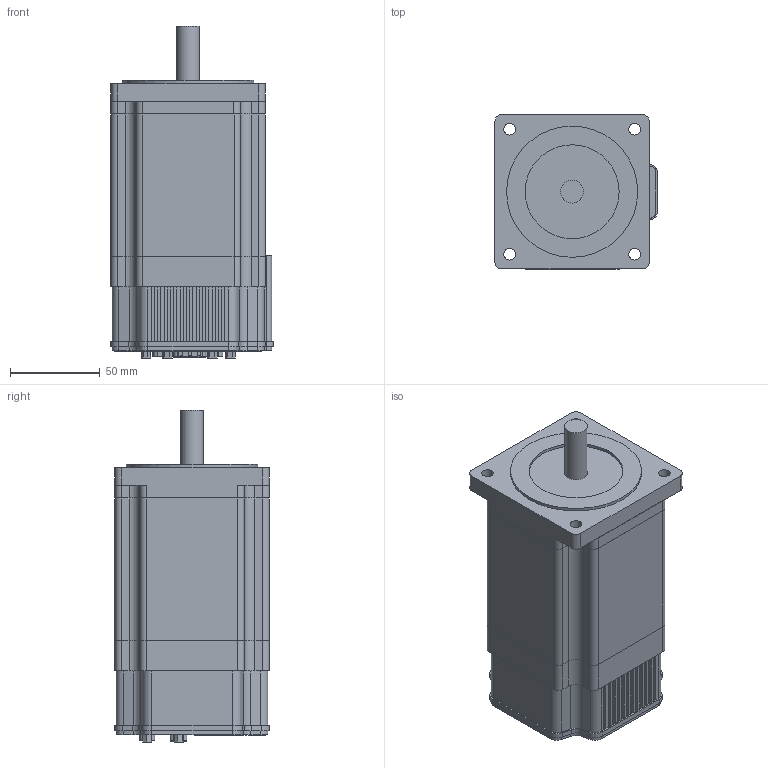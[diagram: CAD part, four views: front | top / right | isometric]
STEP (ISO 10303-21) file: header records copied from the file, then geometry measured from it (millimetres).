
FILE_DESCRIPTION(/* description */ ('Alibre Inc.'),/* implementation_level */ '2;1');
FILE_NAME(/* name */ 'export-09EFDB96-1C79-44C5-A577-45B2F0AC5B2B',/* time_stamp */ '2022-02-23T11:07:02-08:00',/* author */ (''),/* organization */ (''),/* preprocessor_version */ 'ST-DEVELOPER v17',/* originating_system */ 'Alibre',/* authorisation */ '');
FILE_SCHEMA (('CONFIG_CONTROL_DESIGN'));
Length unit declared in the file: inch
Products named in the file (15): ID_1
Bounding box: 90.42 x 86.11 x 184.87 mm (x, y, z)
Volume: 807750.3 mm3; surface area: 133193 mm2
Topology: 69 solids, 70 shells, 2133 faces, 5531 edges, 3627 vertices
Faces by surface type: plane 1051, bspline 641, cylinder 386, torus 50, cone 5
Full cylindrical faces by diameter (mm): 2.489 x4, 2.794 x5, 2.87 x4, 3.048 x6, 3.556 x15, 6.5 x4, 9.525 x2, 12.7 x1, 52.324 x1, 73.025 x1
Entity records: 69048 total; most frequent: CARTESIAN_POINT 22268, ORIENTED_EDGE 10822, DIRECTION 6261, EDGE_CURVE 5403, VERTEX_POINT 3565, VECTOR 3117, LINE 3117, EDGE_LOOP 2284
